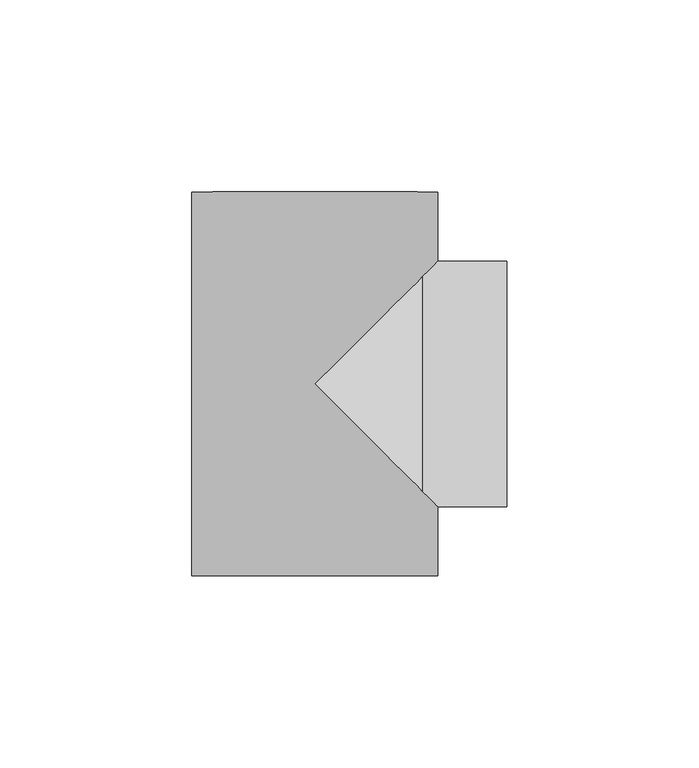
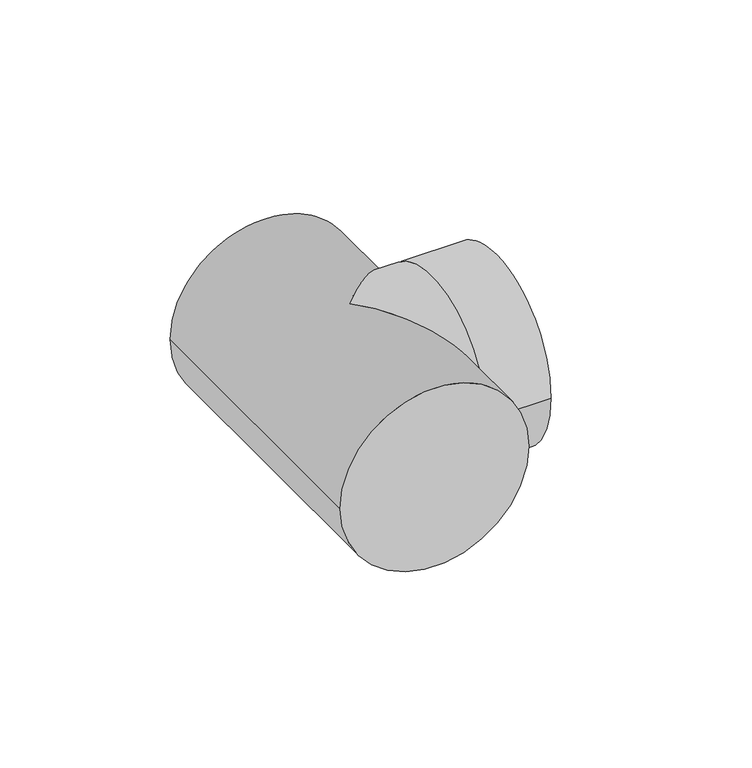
"""IFC4 building model written with IfcOpenShell, lengths in millimetres: pipe fitting geometry, 01101004 : Tê a 90º."""

from ifc_helpers import new_model, si_unit, frame, origin, place, context, project, spatial, circle_curve, ellipse_curve, source, transform, mapped, element, save
from ifc_brep_helpers import plane_surface, cylinder_surface, advanced_brep


def pipe_fitting_3f12d7ab(model_context):
    return source(origin(), model_context, "Body", "AdvancedBrep", [
        advanced_brep(
        [(-32.0, 50.0, 0.0), (32.0, 50.0, 0.0), (-32.0, -50.0, 0.0), (32.0, -50.0, 0.0), (32.0, -32.0, 0.0), (28.0, -28.0, 15.4919334), (0.0, 0.0, 32.0), (28.0, 28.0, 15.4919334), (32.0, 32.0, 0.0), (28.0, 28.0, -15.4919334), (0.0, 0.0, -32.0), (28.0, -28.0, -15.4919334), (50.0, 32.0, 0.0), (50.0, -32.0, 0.0)],
        [
            (0, 1, circle_curve(frame((0.0, 50.0, 0.0), z_axis=(0.0, 1.0, 0.0), x_axis=(1.0, 0.0, 0.0)), 32.0)),
            (1, 0, circle_curve(frame((0.0, 50.0, 0.0), z_axis=(0.0, 1.0, 0.0), x_axis=(1.0, 0.0, 0.0)), 32.0)),
            (2, 3, circle_curve(frame((0.0, -50.0, 0.0), z_axis=(0.0, -1.0, 0.0), x_axis=(1.0, 0.0, 0.0)), 32.0)),
            (3, 2, circle_curve(frame((0.0, -50.0, 0.0), z_axis=(0.0, -1.0, 0.0), x_axis=(1.0, 0.0, 0.0)), 32.0)),
            (0, 2),
            (3, 4),
            (4, 5, ellipse_curve(frame((0.0, 0.0, 0.0), z_axis=(-0.7071067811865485, -0.7071067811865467, 0.0), x_axis=(-0.7071067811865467, 0.7071067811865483, 0.0)), 45.254834, 32.0)),
            (5, 6, ellipse_curve(frame((0.0, 0.0, 0.0), z_axis=(-0.7071067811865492, -0.7071067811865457, 0.0), x_axis=(-0.7071067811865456, 0.7071067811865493, 0.0)), 45.254834, 32.0)),
            (6, 7, ellipse_curve(frame((0.0, 0.0, 0.0), z_axis=(-0.7071067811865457, 0.7071067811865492, 0.0), x_axis=(0.7071067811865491, 0.7071067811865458, 0.0)), 45.254834, 32.0)),
            (7, 8, ellipse_curve(frame((0.0, 0.0, 0.0), z_axis=(-0.7071067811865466, 0.7071067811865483, 0.0), x_axis=(0.7071067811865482, 0.7071067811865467, 0.0)), 45.254834, 32.0)),
            (8, 1),
            (8, 9, ellipse_curve(frame((0.0, 0.0, 0.0), z_axis=(-0.7071067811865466, 0.7071067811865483, 0.0), x_axis=(0.7071067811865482, 0.7071067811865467, 0.0)), 45.254834, 32.0)),
            (9, 10, ellipse_curve(frame((0.0, 0.0, 0.0), z_axis=(-0.7071067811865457, 0.7071067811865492, 0.0), x_axis=(0.7071067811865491, 0.7071067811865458, 0.0)), 45.254834, 32.0)),
            (10, 11, ellipse_curve(frame((0.0, 0.0, 0.0), z_axis=(-0.7071067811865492, -0.7071067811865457, 0.0), x_axis=(-0.7071067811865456, 0.7071067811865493, 0.0)), 45.254834, 32.0)),
            (11, 4, ellipse_curve(frame((0.0, 0.0, 0.0), z_axis=(-0.7071067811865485, -0.7071067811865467, 0.0), x_axis=(-0.7071067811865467, 0.7071067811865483, 0.0)), 45.254834, 32.0)),
            (12, 13, circle_curve(frame((50.0, 0.0, 0.0), z_axis=(1.0, 0.0, 0.0), x_axis=(0.0, -1.0, 0.0)), 32.0)),
            (13, 12, circle_curve(frame((50.0, 0.0, 0.0), z_axis=(1.0, 0.0, 0.0), x_axis=(0.0, -1.0, 0.0)), 32.0)),
            (5, 7, circle_curve(frame((28.0, 0.0, 0.0), z_axis=(-1.0, 0.0, 0.0), x_axis=(0.0, -1.0, 0.0)), 32.0)),
            (9, 11, circle_curve(frame((28.0, 0.0, 0.0), z_axis=(-1.0, 0.0, 0.0), x_axis=(0.0, -1.0, 0.0)), 32.0)),
            (12, 8),
            (4, 13),
        ],
        [
            plane_surface(frame((0.0, 50.0, 0.0), z_axis=(0.0, 1.0, 0.0), x_axis=(0.0, 0.0, 1.0))),
            plane_surface(frame((0.0, -50.0, 0.0), z_axis=(0.0, -1.0, 0.0), x_axis=(0.0, 0.0, 1.0))),
            cylinder_surface(frame((0.0, 50.0, 0.0), z_axis=(0.0, 1.0, 0.0), x_axis=(1.0, 0.0, 0.0)), 32.0),
            plane_surface(frame((50.0, 0.0, 0.0), z_axis=(1.0, 0.0, 0.0), x_axis=(0.0, 0.0, 1.0))),
            cylinder_surface(frame((28.0, 0.0, 0.0), z_axis=(1.0, 0.0, 0.0), x_axis=(0.0, -1.0, 0.0)), 32.0),
            cylinder_surface(frame((50.0, 0.0, 0.0), z_axis=(1.0, 0.0, 0.0), x_axis=(0.0, -1.0, 0.0)), 32.0),
        ],
        [
            (0, [[1, 2]]),
            (1, [[3, 4]]),
            (2, [[-1, 5, -4, 6, 7, 8, 9, 10, 11]]),
            (2, [[-2, -11, 12, 13, 14, 15, -6, -3, -5]]),
            (3, [[16, 17]]),
            (4, [[18, -9, -8]]),
            (4, [[19, -14, -13]]),
            (5, [[-16, 20, -10, -18, -7, 21]]),
            (5, [[-17, -21, -15, -19, -12, -20]]),
        ],
    ),
    ])


if __name__ == "__main__":
    model = new_model("IFC4")
    model_context = context("Model", 3, world=origin())
    ifc_project = project(units=[si_unit("LENGTHUNIT", "METRE", prefix="MILLI")], contexts=[model_context])
    site = spatial("IfcSite", under=ifc_project)
    building = spatial("IfcBuilding", under=site)
    placement = place(None, origin())
    pipe_fitting_shape = pipe_fitting_3f12d7ab(model_context)
    element("IfcPipeFitting", 1, ObjectType="01101004 : Tê a 90º", at=placement, inside=building, context=model_context, shape_type="MappedRepresentation", body=[
        mapped(pipe_fitting_shape, transform((0.0, 0.0, 0.0), x_axis=(1.0, 0.0, 0.0), y_axis=(0.0, 1.0, 0.0), z_axis=(0.0, 0.0, 1.0))),
    ])
    save(model, "model.ifc")
